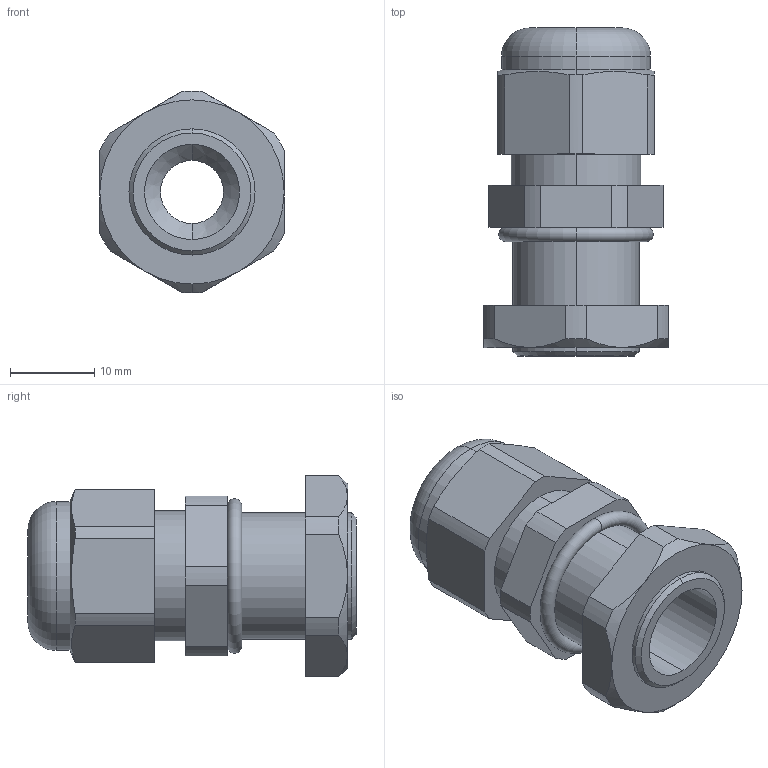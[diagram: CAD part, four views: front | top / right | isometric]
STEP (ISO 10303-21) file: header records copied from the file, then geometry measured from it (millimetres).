
FILE_DESCRIPTION (( 'STEP AP203' ), '1' );
FILE_NAME ('CH-PG9L.STEP', '2018-02-07T14:40:10', ( '' ), ( '' ), 'SwSTEP 2.0', 'SolidWorks 2012', '' );
FILE_SCHEMA (( 'CONFIG_CONTROL_DESIGN' ));
Length unit declared in the file: millimetre
Products named in the file (1): CH-PG9L
Bounding box: 21.9 x 39 x 23.99 mm (x, y, z)
Volume: 7126.2 mm3; surface area: 4653 mm2
Topology: 1 solids, 1 shells, 78 faces, 189 edges, 118 vertices
Faces by surface type: cylinder 34, plane 25, cone 15, torus 4
Entity records: 2438 total; most frequent: CARTESIAN_POINT 492, DIRECTION 415, ORIENTED_EDGE 378, EDGE_CURVE 189, AXIS2_PLACEMENT_3D 165, VERTEX_POINT 118, CIRCLE 86, LINE 85
